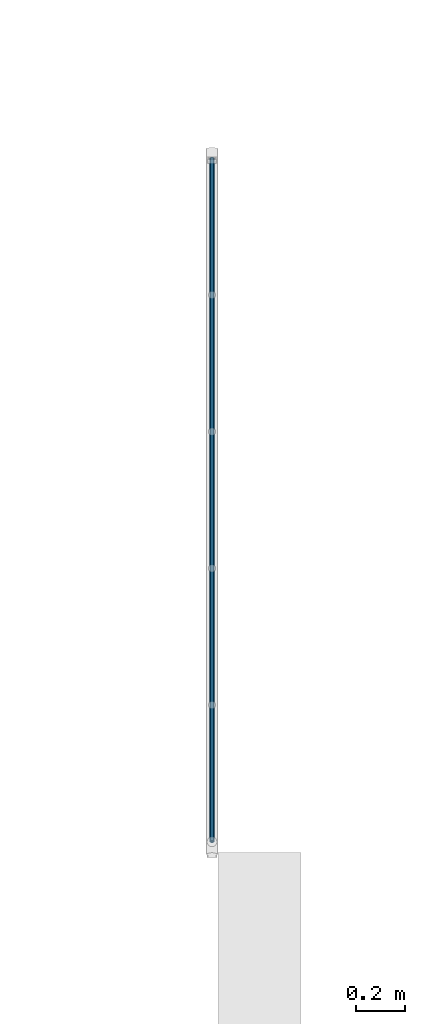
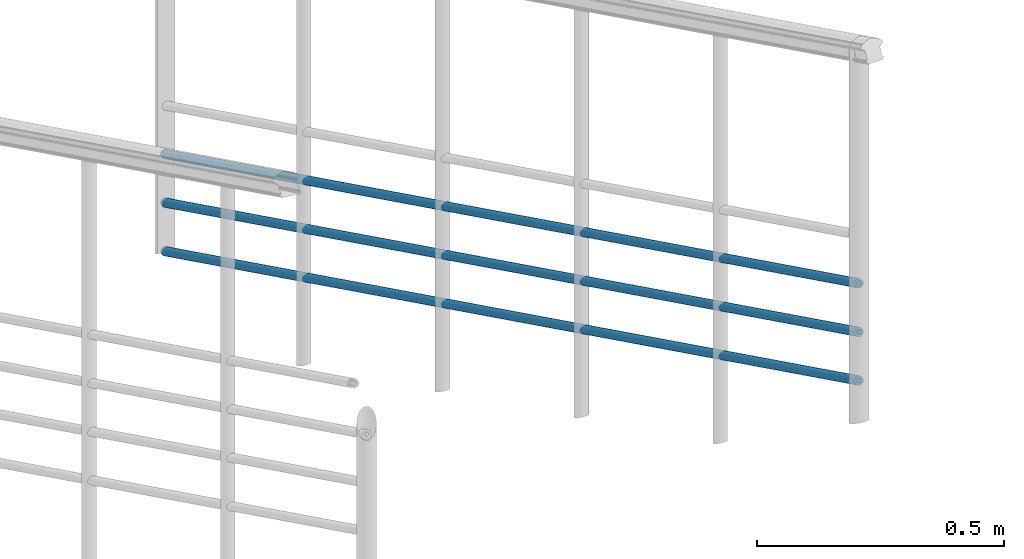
# One storey, part 4 of 16: 3 members, 1 element without a shape of its own.
"""IFC2X3 building model written with IfcOpenShell, lengths in millimetres."""

from ifc_helpers import new_model, entity, si_unit, converted_unit, derived_unit, money_unit, direction, frame, origin_with_axes, place, context, subcontext, project, spatial, faceted_brep, source, transform, mapped, material, type_object, element, aggregate, save


model = new_model("IFC2X3")

# Units and contexts
model_context = context("Model", 3, precision=0.01, world=origin_with_axes(), true_north=direction((0.0, 1.0)))
body_context = subcontext(model_context, "Body", "Model", "MODEL_VIEW")
ifc_project = project(units=[si_unit("LENGTHUNIT", "METRE", prefix="MILLI"), si_unit("AREAUNIT", "SQUARE_METRE"), si_unit("VOLUMEUNIT", "CUBIC_METRE"), converted_unit("PLANEANGLEUNIT", "DEGREE", entity("IfcPlaneAngleMeasure", 0.0174532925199), si_unit("PLANEANGLEUNIT", "RADIAN"), dimensions=[0, 0, 0, 0, 0, 0, 0]), si_unit("SOLIDANGLEUNIT", "STERADIAN"), money_unit("EUR"), converted_unit("TIMEUNIT", "Year", entity("IfcTimeMeasure", 31556926.0), si_unit("TIMEUNIT", "SECOND"), dimensions=[0, 0, 1, 0, 0, 0, 0]), si_unit("MASSUNIT", "GRAM", prefix="KILO"), si_unit("THERMODYNAMICTEMPERATUREUNIT", "DEGREE_CELSIUS"), si_unit("LUMINOUSINTENSITYUNIT", "LUMEN"), si_unit("ENERGYUNIT", "JOULE", prefix="MEGA"), derived_unit("THERMALCONDUCTANCEUNIT", [(si_unit("POWERUNIT", "WATT"), 1), (si_unit("LENGTHUNIT", "METRE"), -1), (si_unit("THERMODYNAMICTEMPERATUREUNIT", "KELVIN"), -1)]), derived_unit("SPECIFICHEATCAPACITYUNIT", [(si_unit("ENERGYUNIT", "JOULE"), 1), (si_unit("MASSUNIT", "GRAM", prefix="KILO"), -1), (si_unit("THERMODYNAMICTEMPERATUREUNIT", "KELVIN"), -1)]), derived_unit("MASSDENSITYUNIT", [(si_unit("MASSUNIT", "GRAM", prefix="KILO"), 1), (si_unit("VOLUMEUNIT", "CUBIC_METRE"), -1)])], contexts=[model_context])

# Site, building, storey
site_placement = place(None, origin_with_axes())
site = spatial("IfcSite", under=ifc_project, at=site_placement, Name="Paldiski mnt 245/1, Tallinn, Harjumaa", CompositionType="COMPLEX")
building_placement = place(site_placement, origin_with_axes())
building = spatial("IfcBuilding", under=site, at=building_placement, Name="RKAS Hoone üldnimetus (kasutust iseloomustav) -> IFC Project Manager -> SOLIBRI", CompositionType="ELEMENT")
storey_placement = place(building_placement, frame((0.0, 0.0, -1200.0), z_axis=(0.0, 0.0, 1.0), x_axis=(1.0, 0.0, 0.0)))
storey = spatial("IfcBuildingStorey", under=building, at=storey_placement, Name="Vundament", CompositionType="ELEMENT", Elevation=-1200.0)

# Railing, members
railing_type = type_object("IfcRailingType", Name="Railing Type", PredefinedType="NOTDEFINED")
railing_placement = place(storey_placement, frame((-44615.0, -7778.11378171, 1453.63636364), z_axis=(0.0, 0.0, 1.0), x_axis=(-0.773149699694, -0.634223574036, 0.0)))
railing = element("IfcRailing", 1, at=railing_placement, inside=storey, type_object=railing_type, Name="PIIRE", PredefinedType="NOTDEFINED")
ifc_material = material(Name="ET-07_Teras - Roostevaba")
member_type = type_object("IfcMemberType", Name="IfcMember", PredefinedType="USERDEFINED")
shared_shape_1 = source(origin_with_axes(), body_context, "Body", "Brep", [
    faceted_brep([(10.0, 0.0, 100.0), (9.84807753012, 0.767326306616, 101.55774815), (9.84807753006, -2806.30553558, 1484.28502088), (9.99999999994, -2807.07286188, 1482.72727273), (9.84807753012, -0.767326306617, 98.4422518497), (9.39692620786, -1.51133779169, 96.9318350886), (8.66025403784, -2.20942804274, 95.5146429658), (7.66044443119, -2.84038594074, 94.2337361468), (6.42787609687, -3.38504014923, 93.1280343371), (5.0, -3.82684162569, 92.2311337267), (3.42020143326, -4.15236645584, 91.5702861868), (1.73648177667, -4.35172373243, 91.1655712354), (0.0, -4.41885608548, 91.0292859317), (-1.73648177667, -4.35172373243, 91.1655712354), (-3.42020143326, -4.15236645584, 91.5702861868), (-5.0, -3.82684162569, 92.2311337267), (-6.42787609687, -3.38504014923, 93.1280343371), (-7.66044443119, -2.84038594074, 94.2337361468), (-8.66025403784, -2.20942804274, 95.5146429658), (-9.39692620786, -1.51133779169, 96.9318350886), (-9.84807753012, -0.767326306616, 98.4422518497), (-10.0, 0.0, 100.0), (-9.84807753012, 0.767326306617, 101.55774815), (-9.39692620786, 1.51133779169, 103.068164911), (-8.66025403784, 2.20942804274, 104.485357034), (-7.66044443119, 2.84038594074, 105.766263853), (-6.42787609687, 3.38504014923, 106.871965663), (-5.0, 3.82684162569, 107.768866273), (-3.42020143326, 4.15236645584, 108.429713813), (-1.73648177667, 4.35172373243, 108.834428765), (0.0, 4.41885608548, 108.970714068), (1.73648177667, 4.35172373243, 108.834428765), (3.42020143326, 4.15236645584, 108.429713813), (5.0, 3.82684162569, 107.768866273), (6.42787609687, 3.38504014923, 106.871965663), (7.66044443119, 2.84038594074, 105.766263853), (8.66025403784, 2.20942804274, 104.485357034), (9.39692620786, 1.51133779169, 103.068164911), (5.5, 0.0, 100.0), (5.41644264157, 0.422029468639, 100.856761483), (5.16830941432, 0.83123578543, 101.687490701), (4.76313972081, 1.21518542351, 102.466946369), (4.21324443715, 1.5622122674, 103.171445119), (3.53533185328, 1.86177208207, 103.779581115), (2.75, 2.10476289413, 104.27287645), (1.88111078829, 2.28380155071, 104.636342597), (0.955064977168, 2.39344805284, 104.858935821), (0.0, 2.43037084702, 104.933892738), (-0.955064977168, 2.39344805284, 104.858935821), (-1.88111078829, 2.28380155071, 104.636342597), (-2.75, 2.10476289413, 104.27287645), (-3.53533185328, 1.86177208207, 103.779581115), (-4.21324443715, 1.5622122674, 103.171445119), (-4.76313972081, 1.21518542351, 102.466946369), (-5.16830941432, 0.831235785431, 101.687490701), (-5.41644264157, 0.422029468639, 100.856761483), (-5.5, 0.0, 100.0), (-5.41644264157, -0.422029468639, 99.1432385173), (-5.16830941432, -0.83123578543, 98.3125092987), (-4.76313972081, -1.21518542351, 97.5330536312), (-4.21324443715, -1.5622122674, 96.8285548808), (-3.53533185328, -1.86177208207, 96.2204188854), (-2.75, -2.10476289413, 95.7271235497), (-1.88111078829, -2.28380155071, 95.3636574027), (-0.955064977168, -2.39344805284, 95.1410641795), (0.0, -2.43037084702, 95.0661072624), (0.955064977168, -2.39344805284, 95.1410641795), (1.88111078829, -2.28380155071, 95.3636574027), (2.75, -2.10476289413, 95.7271235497), (3.53533185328, -1.86177208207, 96.2204188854), (4.21324443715, -1.5622122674, 96.8285548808), (4.76313972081, -1.21518542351, 97.5330536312), (5.16830941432, -0.831235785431, 98.3125092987), (5.41644264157, -0.422029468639, 99.1432385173), (9.3969262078, -2805.56152409, 1485.79543764), (8.66025403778, -2804.86343384, 1487.21262976), (7.66044443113, -2804.23247594, 1488.49353658), (6.4278760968, -2803.68782173, 1489.59923839), (4.99999999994, -2803.24602026, 1490.496139), (3.42020143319, -2802.92049543, 1491.15698654), (1.73648177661, -2802.72113815, 1491.56170149), (0.0, -2802.6540058, 1491.6979868), (-1.73648177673, -2802.72113815, 1491.56170149), (-3.42020143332, -2802.92049543, 1491.15698654), (-5.00000000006, -2803.24602026, 1490.496139), (-6.42787609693, -2803.68782173, 1489.59923839), (-7.66044443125, -2804.23247594, 1488.49353658), (-8.66025403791, -2804.86343384, 1487.21262976), (-9.39692620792, -2805.56152409, 1485.79543764), (-9.84807753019, -2806.30553558, 1484.28502088), (-10.0000000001, -2807.07286188, 1482.72727273), (-9.84807753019, -2807.84018819, 1481.16952458), (-9.39692620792, -2808.58419967, 1479.65910782), (-8.66025403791, -2809.28228993, 1478.24191569), (-7.66044443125, -2809.91324782, 1476.96100887), (-6.42787609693, -2810.45790203, 1475.85530706), (-5.00000000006, -2810.89970351, 1474.95840645), (-3.42020143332, -2811.22522834, 1474.29755891), (-1.73648177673, -2811.42458562, 1473.89284396), (0.0, -2811.49171797, 1473.75655866), (1.73648177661, -2811.42458562, 1473.89284396), (3.42020143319, -2811.22522834, 1474.29755891), (4.99999999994, -2810.89970351, 1474.95840645), (6.4278760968, -2810.45790203, 1475.85530706), (7.66044443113, -2809.91324782, 1476.96100887), (8.66025403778, -2809.28228993, 1478.24191569), (9.3969262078, -2808.58419967, 1479.65910782), (9.84807753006, -2807.84018819, 1481.16952458), (5.49999999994, -2807.07286188, 1482.72727273), (5.4164426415, -2807.49489135, 1481.87051124), (5.16830941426, -2807.90409767, 1481.03978203), (4.76313972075, -2808.28804731, 1480.26032636), (4.21324443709, -2808.63507415, 1479.55582761), (3.53533185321, -2808.93463397, 1478.94769161), (2.74999999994, -2809.17762478, 1478.45439628), (1.88111078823, -2809.35666343, 1478.09093013), (0.955064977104, -2809.46630994, 1477.86833691), (0.0, -2809.50323273, 1477.79337999), (-0.955064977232, -2809.46630994, 1477.86833691), (-1.88111078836, -2809.35666343, 1478.09093013), (-2.75000000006, -2809.17762478, 1478.45439628), (-3.53533185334, -2808.93463397, 1478.94769161), (-4.21324443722, -2808.63507415, 1479.55582761), (-4.76313972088, -2808.28804731, 1480.26032636), (-5.16830941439, -2807.90409767, 1481.03978203), (-5.41644264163, -2807.49489135, 1481.87051124), (-5.50000000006, -2807.07286188, 1482.72727273), (-5.41644264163, -2806.65083241, 1483.58403421), (-5.16830941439, -2806.2416261, 1484.41476343), (-4.76313972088, -2805.85767646, 1485.1942191), (-4.21324443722, -2805.51064962, 1485.89871785), (-3.53533185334, -2805.2110898, 1486.50685384), (-2.75000000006, -2804.96809899, 1487.00014918), (-1.88111078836, -2804.78906033, 1487.36361532), (-0.955064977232, -2804.67941383, 1487.58620855), (0.0, -2804.64249104, 1487.66116546), (0.955064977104, -2804.67941383, 1487.58620855), (1.88111078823, -2804.78906033, 1487.36361532), (2.74999999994, -2804.96809899, 1487.00014918), (3.53533185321, -2805.2110898, 1486.50685384), (4.21324443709, -2805.51064962, 1485.89871785), (4.76313972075, -2805.85767646, 1485.1942191), (5.16830941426, -2806.2416261, 1484.41476343), (5.4164426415, -2806.65083241, 1483.58403421)], [[[0, 1, 2, 3]], [[0, 4, 5, 6, 7, 8, 9, 10, 11, 12, 13, 14, 15, 16, 17, 18, 19, 20, 21, 22, 23, 24, 25, 26, 27, 28, 29, 30, 31, 32, 33, 34, 35, 36, 37, 1], [38, 39, 40, 41, 42, 43, 44, 45, 46, 47, 48, 49, 50, 51, 52, 53, 54, 55, 56, 57, 58, 59, 60, 61, 62, 63, 64, 65, 66, 67, 68, 69, 70, 71, 72, 73]], [[1, 37, 74, 2]], [[3, 2, 74, 75, 76, 77, 78, 79, 80, 81, 82, 83, 84, 85, 86, 87, 88, 89, 90, 91, 92, 93, 94, 95, 96, 97, 98, 99, 100, 101, 102, 103, 104, 105, 106, 107], [108, 109, 110, 111, 112, 113, 114, 115, 116, 117, 118, 119, 120, 121, 122, 123, 124, 125, 126, 127, 128, 129, 130, 131, 132, 133, 134, 135, 136, 137, 138, 139, 140, 141, 142, 143]], [[4, 0, 3, 107]], [[5, 4, 107, 106]], [[6, 5, 106, 105]], [[7, 6, 105, 104]], [[8, 7, 104, 103]], [[9, 8, 103, 102]], [[10, 9, 102, 101]], [[11, 10, 101, 100]], [[12, 11, 100, 99]], [[13, 12, 99, 98]], [[14, 13, 98, 97]], [[15, 14, 97, 96]], [[16, 15, 96, 95]], [[17, 16, 95, 94]], [[18, 17, 94, 93]], [[19, 18, 93, 92]], [[20, 19, 92, 91]], [[21, 20, 91, 90]], [[22, 21, 90, 89]], [[23, 22, 89, 88]], [[24, 23, 88, 87]], [[25, 24, 87, 86]], [[26, 25, 86, 85]], [[27, 26, 85, 84]], [[28, 27, 84, 83]], [[29, 28, 83, 82]], [[30, 29, 82, 81]], [[31, 30, 81, 80]], [[32, 31, 80, 79]], [[33, 32, 79, 78]], [[34, 33, 78, 77]], [[35, 34, 77, 76]], [[36, 35, 76, 75]], [[37, 36, 75, 74]], [[39, 38, 108, 143]], [[40, 39, 143, 142]], [[41, 40, 142, 141]], [[42, 41, 141, 140]], [[43, 42, 140, 139]], [[44, 43, 139, 138]], [[45, 44, 138, 137]], [[46, 45, 137, 136]], [[47, 46, 136, 135]], [[48, 47, 135, 134]], [[49, 48, 134, 133]], [[50, 49, 133, 132]], [[51, 50, 132, 131]], [[52, 51, 131, 130]], [[53, 52, 130, 129]], [[54, 53, 129, 128]], [[55, 54, 128, 127]], [[56, 55, 127, 126]], [[57, 56, 126, 125]], [[58, 57, 125, 124]], [[59, 58, 124, 123]], [[60, 59, 123, 122]], [[61, 60, 122, 121]], [[62, 61, 121, 120]], [[63, 62, 120, 119]], [[64, 63, 119, 118]], [[65, 64, 118, 117]], [[66, 65, 117, 116]], [[67, 66, 116, 115]], [[68, 67, 115, 114]], [[69, 68, 114, 113]], [[70, 69, 113, 112]], [[71, 70, 112, 111]], [[72, 71, 111, 110]], [[73, 72, 110, 109]], [[38, 73, 109, 108]]]),
])
member_1_placement = place(railing_placement, frame((890.155891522, 1085.14377009, -14.1421356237), z_axis=(0.0, 0.0, 1.0), x_axis=(-0.773149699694, 0.634223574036, 0.0)))
member_1 = element("IfcMember", 2, at=member_1_placement, type_object=member_type, material=ifc_material, Name="Piirde alaosa - 001", ObjectType="Rail", context=body_context, shape_type="MappedRepresentation", body=[
    mapped(shared_shape_1, transform((0.0, 1403.53643094, -85.8578643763))),
])
shared_shape_2 = source(origin_with_axes(), body_context, "Body", "Brep", [
    faceted_brep([(10.0, 0.0, 220.0), (9.84807753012, 0.767326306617, 221.55774815), (9.84807753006, -2806.30553558, 1604.28502088), (9.99999999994, -2807.07286188, 1602.72727273), (9.84807753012, -0.767326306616, 218.44225185), (9.39692620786, -1.51133779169, 216.931835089), (8.66025403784, -2.20942804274, 215.514642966), (7.66044443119, -2.84038594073, 214.233736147), (6.42787609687, -3.38504014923, 213.128034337), (5.0, -3.82684162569, 212.231133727), (3.42020143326, -4.15236645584, 211.570286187), (1.73648177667, -4.35172373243, 211.165571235), (0.0, -4.41885608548, 211.029285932), (-1.73648177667, -4.35172373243, 211.165571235), (-3.42020143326, -4.15236645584, 211.570286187), (-5.0, -3.82684162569, 212.231133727), (-6.42787609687, -3.38504014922, 213.128034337), (-7.66044443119, -2.84038594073, 214.233736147), (-8.66025403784, -2.20942804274, 215.514642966), (-9.39692620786, -1.51133779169, 216.931835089), (-9.84807753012, -0.767326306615, 218.44225185), (-10.0, 0.0, 220.0), (-9.84807753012, 0.767326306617, 221.55774815), (-9.39692620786, 1.51133779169, 223.068164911), (-8.66025403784, 2.20942804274, 224.485357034), (-7.66044443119, 2.84038594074, 225.766263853), (-6.42787609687, 3.38504014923, 226.871965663), (-5.0, 3.8268416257, 227.768866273), (-3.42020143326, 4.15236645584, 228.429713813), (-1.73648177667, 4.35172373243, 228.834428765), (0.0, 4.41885608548, 228.970714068), (1.73648177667, 4.35172373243, 228.834428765), (3.42020143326, 4.15236645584, 228.429713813), (5.0, 3.8268416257, 227.768866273), (6.42787609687, 3.38504014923, 226.871965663), (7.66044443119, 2.84038594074, 225.766263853), (8.66025403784, 2.20942804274, 224.485357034), (9.39692620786, 1.51133779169, 223.068164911), (5.5, 0.0, 220.0), (5.41644264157, 0.42202946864, 220.856761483), (5.16830941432, 0.831235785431, 221.687490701), (4.76313972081, 1.21518542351, 222.466946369), (4.21324443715, 1.56221226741, 223.171445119), (3.53533185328, 1.86177208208, 223.779581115), (2.75, 2.10476289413, 224.27287645), (1.88111078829, 2.28380155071, 224.636342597), (0.955064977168, 2.39344805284, 224.858935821), (0.0, 2.43037084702, 224.933892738), (-0.955064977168, 2.39344805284, 224.858935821), (-1.88111078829, 2.28380155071, 224.636342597), (-2.75, 2.10476289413, 224.27287645), (-3.53533185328, 1.86177208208, 223.779581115), (-4.21324443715, 1.56221226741, 223.171445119), (-4.76313972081, 1.21518542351, 222.466946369), (-5.16830941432, 0.831235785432, 221.687490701), (-5.41644264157, 0.42202946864, 220.856761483), (-5.5, 0.0, 220.0), (-5.41644264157, -0.422029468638, 219.143238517), (-5.16830941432, -0.83123578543, 218.312509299), (-4.76313972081, -1.21518542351, 217.533053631), (-4.21324443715, -1.5622122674, 216.828554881), (-3.53533185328, -1.86177208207, 216.220418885), (-2.75, -2.10476289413, 215.72712355), (-1.88111078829, -2.28380155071, 215.363657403), (-0.955064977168, -2.39344805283, 215.141064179), (0.0, -2.43037084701, 215.066107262), (0.955064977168, -2.39344805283, 215.141064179), (1.88111078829, -2.28380155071, 215.363657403), (2.75, -2.10476289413, 215.72712355), (3.53533185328, -1.86177208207, 216.220418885), (4.21324443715, -1.5622122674, 216.828554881), (4.76313972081, -1.21518542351, 217.533053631), (5.16830941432, -0.83123578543, 218.312509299), (5.41644264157, -0.422029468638, 219.143238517), (9.3969262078, -2805.56152409, 1605.79543764), (8.66025403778, -2804.86343384, 1607.21262976), (7.66044443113, -2804.23247594, 1608.49353658), (6.4278760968, -2803.68782173, 1609.59923839), (4.99999999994, -2803.24602026, 1610.496139), (3.42020143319, -2802.92049543, 1611.15698654), (1.73648177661, -2802.72113815, 1611.56170149), (0.0, -2802.6540058, 1611.6979868), (-1.73648177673, -2802.72113815, 1611.56170149), (-3.42020143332, -2802.92049543, 1611.15698654), (-5.00000000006, -2803.24602026, 1610.496139), (-6.42787609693, -2803.68782173, 1609.59923839), (-7.66044443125, -2804.23247594, 1608.49353658), (-8.66025403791, -2804.86343384, 1607.21262976), (-9.39692620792, -2805.56152409, 1605.79543764), (-9.84807753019, -2806.30553558, 1604.28502088), (-10.0000000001, -2807.07286188, 1602.72727273), (-9.84807753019, -2807.84018819, 1601.16952458), (-9.39692620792, -2808.58419967, 1599.65910782), (-8.66025403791, -2809.28228993, 1598.24191569), (-7.66044443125, -2809.91324782, 1596.96100887), (-6.42787609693, -2810.45790203, 1595.85530706), (-5.00000000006, -2810.89970351, 1594.95840645), (-3.42020143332, -2811.22522834, 1594.29755891), (-1.73648177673, -2811.42458562, 1593.89284396), (0.0, -2811.49171797, 1593.75655866), (1.73648177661, -2811.42458562, 1593.89284396), (3.42020143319, -2811.22522834, 1594.29755891), (4.99999999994, -2810.89970351, 1594.95840645), (6.4278760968, -2810.45790203, 1595.85530706), (7.66044443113, -2809.91324782, 1596.96100887), (8.66025403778, -2809.28228993, 1598.24191569), (9.3969262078, -2808.58419967, 1599.65910782), (9.84807753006, -2807.84018819, 1601.16952458), (5.49999999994, -2807.07286188, 1602.72727273), (5.4164426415, -2807.49489135, 1601.87051124), (5.16830941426, -2807.90409767, 1601.03978203), (4.76313972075, -2808.28804731, 1600.26032636), (4.21324443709, -2808.63507415, 1599.55582761), (3.53533185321, -2808.93463397, 1598.94769161), (2.74999999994, -2809.17762478, 1598.45439628), (1.88111078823, -2809.35666343, 1598.09093013), (0.955064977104, -2809.46630994, 1597.86833691), (0.0, -2809.50323273, 1597.79337999), (-0.955064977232, -2809.46630994, 1597.86833691), (-1.88111078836, -2809.35666343, 1598.09093013), (-2.75000000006, -2809.17762478, 1598.45439628), (-3.53533185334, -2808.93463397, 1598.94769161), (-4.21324443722, -2808.63507415, 1599.55582761), (-4.76313972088, -2808.28804731, 1600.26032636), (-5.16830941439, -2807.90409767, 1601.03978203), (-5.41644264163, -2807.49489135, 1601.87051124), (-5.50000000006, -2807.07286188, 1602.72727273), (-5.41644264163, -2806.65083241, 1603.58403421), (-5.16830941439, -2806.2416261, 1604.41476343), (-4.76313972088, -2805.85767646, 1605.1942191), (-4.21324443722, -2805.51064962, 1605.89871785), (-3.53533185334, -2805.2110898, 1606.50685384), (-2.75000000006, -2804.96809899, 1607.00014918), (-1.88111078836, -2804.78906033, 1607.36361532), (-0.955064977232, -2804.67941383, 1607.58620855), (0.0, -2804.64249104, 1607.66116546), (0.955064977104, -2804.67941383, 1607.58620855), (1.88111078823, -2804.78906033, 1607.36361532), (2.74999999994, -2804.96809899, 1607.00014918), (3.53533185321, -2805.2110898, 1606.50685384), (4.21324443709, -2805.51064962, 1605.89871785), (4.76313972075, -2805.85767646, 1605.1942191), (5.16830941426, -2806.2416261, 1604.41476343), (5.4164426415, -2806.65083241, 1603.58403421)], [[[0, 1, 2, 3]], [[0, 4, 5, 6, 7, 8, 9, 10, 11, 12, 13, 14, 15, 16, 17, 18, 19, 20, 21, 22, 23, 24, 25, 26, 27, 28, 29, 30, 31, 32, 33, 34, 35, 36, 37, 1], [38, 39, 40, 41, 42, 43, 44, 45, 46, 47, 48, 49, 50, 51, 52, 53, 54, 55, 56, 57, 58, 59, 60, 61, 62, 63, 64, 65, 66, 67, 68, 69, 70, 71, 72, 73]], [[1, 37, 74, 2]], [[3, 2, 74, 75, 76, 77, 78, 79, 80, 81, 82, 83, 84, 85, 86, 87, 88, 89, 90, 91, 92, 93, 94, 95, 96, 97, 98, 99, 100, 101, 102, 103, 104, 105, 106, 107], [108, 109, 110, 111, 112, 113, 114, 115, 116, 117, 118, 119, 120, 121, 122, 123, 124, 125, 126, 127, 128, 129, 130, 131, 132, 133, 134, 135, 136, 137, 138, 139, 140, 141, 142, 143]], [[4, 0, 3, 107]], [[5, 4, 107, 106]], [[6, 5, 106, 105]], [[7, 6, 105, 104]], [[8, 7, 104, 103]], [[9, 8, 103, 102]], [[10, 9, 102, 101]], [[11, 10, 101, 100]], [[12, 11, 100, 99]], [[13, 12, 99, 98]], [[14, 13, 98, 97]], [[15, 14, 97, 96]], [[16, 15, 96, 95]], [[17, 16, 95, 94]], [[18, 17, 94, 93]], [[19, 18, 93, 92]], [[20, 19, 92, 91]], [[21, 20, 91, 90]], [[22, 21, 90, 89]], [[23, 22, 89, 88]], [[24, 23, 88, 87]], [[25, 24, 87, 86]], [[26, 25, 86, 85]], [[27, 26, 85, 84]], [[28, 27, 84, 83]], [[29, 28, 83, 82]], [[30, 29, 82, 81]], [[31, 30, 81, 80]], [[32, 31, 80, 79]], [[33, 32, 79, 78]], [[34, 33, 78, 77]], [[35, 34, 77, 76]], [[36, 35, 76, 75]], [[37, 36, 75, 74]], [[39, 38, 108, 143]], [[40, 39, 143, 142]], [[41, 40, 142, 141]], [[42, 41, 141, 140]], [[43, 42, 140, 139]], [[44, 43, 139, 138]], [[45, 44, 138, 137]], [[46, 45, 137, 136]], [[47, 46, 136, 135]], [[48, 47, 135, 134]], [[49, 48, 134, 133]], [[50, 49, 133, 132]], [[51, 50, 132, 131]], [[52, 51, 131, 130]], [[53, 52, 130, 129]], [[54, 53, 129, 128]], [[55, 54, 128, 127]], [[56, 55, 127, 126]], [[57, 56, 126, 125]], [[58, 57, 125, 124]], [[59, 58, 124, 123]], [[60, 59, 123, 122]], [[61, 60, 122, 121]], [[62, 61, 121, 120]], [[63, 62, 120, 119]], [[64, 63, 119, 118]], [[65, 64, 118, 117]], [[66, 65, 117, 116]], [[67, 66, 116, 115]], [[68, 67, 115, 114]], [[69, 68, 114, 113]], [[70, 69, 113, 112]], [[71, 70, 112, 111]], [[72, 71, 111, 110]], [[73, 72, 110, 109]], [[38, 73, 109, 108]]]),
])
member_2_placement = place(railing_placement, frame((890.155891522, 1085.14377009, 105.857864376), z_axis=(0.0, 0.0, 1.0), x_axis=(-0.773149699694, 0.634223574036, 0.0)))
member_2 = element("IfcMember", 3, at=member_2_placement, type_object=member_type, material=ifc_material, Name="Piirde alaosa - 001", ObjectType="Rail", context=body_context, shape_type="MappedRepresentation", body=[
    mapped(shared_shape_2, transform((0.0, 1403.53643094, -205.857864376))),
])
shared_shape_3 = source(origin_with_axes(), body_context, "Body", "Brep", [
    faceted_brep([(10.0, 0.0, 340.0), (9.84807753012, 0.767326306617, 341.55774815), (9.84807753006, -2806.30553558, 1724.28502088), (9.99999999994, -2807.07286188, 1722.72727273), (9.84807753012, -0.767326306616, 338.44225185), (9.39692620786, -1.51133779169, 336.931835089), (8.66025403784, -2.20942804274, 335.514642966), (7.66044443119, -2.84038594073, 334.233736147), (6.42787609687, -3.38504014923, 333.128034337), (5.0, -3.82684162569, 332.231133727), (3.42020143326, -4.15236645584, 331.570286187), (1.73648177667, -4.35172373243, 331.165571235), (0.0, -4.41885608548, 331.029285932), (-1.73648177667, -4.35172373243, 331.165571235), (-3.42020143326, -4.15236645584, 331.570286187), (-5.0, -3.82684162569, 332.231133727), (-6.42787609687, -3.38504014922, 333.128034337), (-7.66044443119, -2.84038594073, 334.233736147), (-8.66025403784, -2.20942804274, 335.514642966), (-9.39692620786, -1.51133779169, 336.931835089), (-9.84807753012, -0.767326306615, 338.44225185), (-10.0, 0.0, 340.0), (-9.84807753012, 0.767326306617, 341.55774815), (-9.39692620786, 1.51133779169, 343.068164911), (-8.66025403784, 2.20942804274, 344.485357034), (-7.66044443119, 2.84038594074, 345.766263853), (-6.42787609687, 3.38504014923, 346.871965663), (-5.0, 3.8268416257, 347.768866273), (-3.42020143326, 4.15236645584, 348.429713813), (-1.73648177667, 4.35172373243, 348.834428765), (0.0, 4.41885608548, 348.970714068), (1.73648177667, 4.35172373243, 348.834428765), (3.42020143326, 4.15236645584, 348.429713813), (5.0, 3.8268416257, 347.768866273), (6.42787609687, 3.38504014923, 346.871965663), (7.66044443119, 2.84038594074, 345.766263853), (8.66025403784, 2.20942804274, 344.485357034), (9.39692620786, 1.51133779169, 343.068164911), (5.5, 0.0, 340.0), (5.41644264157, 0.42202946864, 340.856761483), (5.16830941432, 0.831235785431, 341.687490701), (4.76313972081, 1.21518542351, 342.466946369), (4.21324443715, 1.56221226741, 343.171445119), (3.53533185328, 1.86177208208, 343.779581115), (2.75, 2.10476289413, 344.27287645), (1.88111078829, 2.28380155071, 344.636342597), (0.955064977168, 2.39344805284, 344.858935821), (0.0, 2.43037084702, 344.933892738), (-0.955064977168, 2.39344805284, 344.858935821), (-1.88111078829, 2.28380155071, 344.636342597), (-2.75, 2.10476289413, 344.27287645), (-3.53533185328, 1.86177208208, 343.779581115), (-4.21324443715, 1.56221226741, 343.171445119), (-4.76313972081, 1.21518542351, 342.466946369), (-5.16830941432, 0.831235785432, 341.687490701), (-5.41644264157, 0.42202946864, 340.856761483), (-5.5, 0.0, 340.0), (-5.41644264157, -0.422029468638, 339.143238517), (-5.16830941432, -0.83123578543, 338.312509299), (-4.76313972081, -1.21518542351, 337.533053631), (-4.21324443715, -1.5622122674, 336.828554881), (-3.53533185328, -1.86177208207, 336.220418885), (-2.75, -2.10476289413, 335.72712355), (-1.88111078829, -2.28380155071, 335.363657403), (-0.955064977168, -2.39344805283, 335.141064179), (0.0, -2.43037084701, 335.066107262), (0.955064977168, -2.39344805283, 335.141064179), (1.88111078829, -2.28380155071, 335.363657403), (2.75, -2.10476289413, 335.72712355), (3.53533185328, -1.86177208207, 336.220418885), (4.21324443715, -1.5622122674, 336.828554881), (4.76313972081, -1.21518542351, 337.533053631), (5.16830941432, -0.83123578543, 338.312509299), (5.41644264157, -0.422029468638, 339.143238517), (9.3969262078, -2805.56152409, 1725.79543764), (8.66025403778, -2804.86343384, 1727.21262976), (7.66044443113, -2804.23247594, 1728.49353658), (6.4278760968, -2803.68782173, 1729.59923839), (4.99999999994, -2803.24602026, 1730.496139), (3.42020143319, -2802.92049543, 1731.15698654), (1.73648177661, -2802.72113815, 1731.56170149), (0.0, -2802.6540058, 1731.6979868), (-1.73648177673, -2802.72113815, 1731.56170149), (-3.42020143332, -2802.92049543, 1731.15698654), (-5.00000000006, -2803.24602026, 1730.496139), (-6.42787609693, -2803.68782173, 1729.59923839), (-7.66044443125, -2804.23247594, 1728.49353658), (-8.66025403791, -2804.86343384, 1727.21262976), (-9.39692620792, -2805.56152409, 1725.79543764), (-9.84807753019, -2806.30553558, 1724.28502088), (-10.0000000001, -2807.07286188, 1722.72727273), (-9.84807753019, -2807.84018819, 1721.16952458), (-9.39692620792, -2808.58419967, 1719.65910782), (-8.66025403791, -2809.28228993, 1718.24191569), (-7.66044443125, -2809.91324782, 1716.96100887), (-6.42787609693, -2810.45790203, 1715.85530706), (-5.00000000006, -2810.89970351, 1714.95840645), (-3.42020143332, -2811.22522834, 1714.29755891), (-1.73648177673, -2811.42458562, 1713.89284396), (0.0, -2811.49171797, 1713.75655866), (1.73648177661, -2811.42458562, 1713.89284396), (3.42020143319, -2811.22522834, 1714.29755891), (4.99999999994, -2810.89970351, 1714.95840645), (6.4278760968, -2810.45790203, 1715.85530706), (7.66044443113, -2809.91324782, 1716.96100887), (8.66025403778, -2809.28228993, 1718.24191569), (9.3969262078, -2808.58419967, 1719.65910782), (9.84807753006, -2807.84018819, 1721.16952458), (5.49999999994, -2807.07286188, 1722.72727273), (5.4164426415, -2807.49489135, 1721.87051124), (5.16830941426, -2807.90409767, 1721.03978203), (4.76313972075, -2808.28804731, 1720.26032636), (4.21324443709, -2808.63507415, 1719.55582761), (3.53533185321, -2808.93463397, 1718.94769161), (2.74999999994, -2809.17762478, 1718.45439628), (1.88111078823, -2809.35666343, 1718.09093013), (0.955064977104, -2809.46630994, 1717.86833691), (0.0, -2809.50323273, 1717.79337999), (-0.955064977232, -2809.46630994, 1717.86833691), (-1.88111078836, -2809.35666343, 1718.09093013), (-2.75000000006, -2809.17762478, 1718.45439628), (-3.53533185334, -2808.93463397, 1718.94769161), (-4.21324443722, -2808.63507415, 1719.55582761), (-4.76313972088, -2808.28804731, 1720.26032636), (-5.16830941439, -2807.90409767, 1721.03978203), (-5.41644264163, -2807.49489135, 1721.87051124), (-5.50000000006, -2807.07286188, 1722.72727273), (-5.41644264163, -2806.65083241, 1723.58403421), (-5.16830941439, -2806.2416261, 1724.41476343), (-4.76313972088, -2805.85767646, 1725.1942191), (-4.21324443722, -2805.51064962, 1725.89871785), (-3.53533185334, -2805.2110898, 1726.50685384), (-2.75000000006, -2804.96809899, 1727.00014918), (-1.88111078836, -2804.78906033, 1727.36361532), (-0.955064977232, -2804.67941383, 1727.58620855), (0.0, -2804.64249104, 1727.66116546), (0.955064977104, -2804.67941383, 1727.58620855), (1.88111078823, -2804.78906033, 1727.36361532), (2.74999999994, -2804.96809899, 1727.00014918), (3.53533185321, -2805.2110898, 1726.50685384), (4.21324443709, -2805.51064962, 1725.89871785), (4.76313972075, -2805.85767646, 1725.1942191), (5.16830941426, -2806.2416261, 1724.41476343), (5.4164426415, -2806.65083241, 1723.58403421)], [[[0, 1, 2, 3]], [[0, 4, 5, 6, 7, 8, 9, 10, 11, 12, 13, 14, 15, 16, 17, 18, 19, 20, 21, 22, 23, 24, 25, 26, 27, 28, 29, 30, 31, 32, 33, 34, 35, 36, 37, 1], [38, 39, 40, 41, 42, 43, 44, 45, 46, 47, 48, 49, 50, 51, 52, 53, 54, 55, 56, 57, 58, 59, 60, 61, 62, 63, 64, 65, 66, 67, 68, 69, 70, 71, 72, 73]], [[1, 37, 74, 2]], [[3, 2, 74, 75, 76, 77, 78, 79, 80, 81, 82, 83, 84, 85, 86, 87, 88, 89, 90, 91, 92, 93, 94, 95, 96, 97, 98, 99, 100, 101, 102, 103, 104, 105, 106, 107], [108, 109, 110, 111, 112, 113, 114, 115, 116, 117, 118, 119, 120, 121, 122, 123, 124, 125, 126, 127, 128, 129, 130, 131, 132, 133, 134, 135, 136, 137, 138, 139, 140, 141, 142, 143]], [[4, 0, 3, 107]], [[5, 4, 107, 106]], [[6, 5, 106, 105]], [[7, 6, 105, 104]], [[8, 7, 104, 103]], [[9, 8, 103, 102]], [[10, 9, 102, 101]], [[11, 10, 101, 100]], [[12, 11, 100, 99]], [[13, 12, 99, 98]], [[14, 13, 98, 97]], [[15, 14, 97, 96]], [[16, 15, 96, 95]], [[17, 16, 95, 94]], [[18, 17, 94, 93]], [[19, 18, 93, 92]], [[20, 19, 92, 91]], [[21, 20, 91, 90]], [[22, 21, 90, 89]], [[23, 22, 89, 88]], [[24, 23, 88, 87]], [[25, 24, 87, 86]], [[26, 25, 86, 85]], [[27, 26, 85, 84]], [[28, 27, 84, 83]], [[29, 28, 83, 82]], [[30, 29, 82, 81]], [[31, 30, 81, 80]], [[32, 31, 80, 79]], [[33, 32, 79, 78]], [[34, 33, 78, 77]], [[35, 34, 77, 76]], [[36, 35, 76, 75]], [[37, 36, 75, 74]], [[39, 38, 108, 143]], [[40, 39, 143, 142]], [[41, 40, 142, 141]], [[42, 41, 141, 140]], [[43, 42, 140, 139]], [[44, 43, 139, 138]], [[45, 44, 138, 137]], [[46, 45, 137, 136]], [[47, 46, 136, 135]], [[48, 47, 135, 134]], [[49, 48, 134, 133]], [[50, 49, 133, 132]], [[51, 50, 132, 131]], [[52, 51, 131, 130]], [[53, 52, 130, 129]], [[54, 53, 129, 128]], [[55, 54, 128, 127]], [[56, 55, 127, 126]], [[57, 56, 126, 125]], [[58, 57, 125, 124]], [[59, 58, 124, 123]], [[60, 59, 123, 122]], [[61, 60, 122, 121]], [[62, 61, 121, 120]], [[63, 62, 120, 119]], [[64, 63, 119, 118]], [[65, 64, 118, 117]], [[66, 65, 117, 116]], [[67, 66, 116, 115]], [[68, 67, 115, 114]], [[69, 68, 114, 113]], [[70, 69, 113, 112]], [[71, 70, 112, 111]], [[72, 71, 111, 110]], [[73, 72, 110, 109]], [[38, 73, 109, 108]]]),
])
member_3_placement = place(railing_placement, frame((890.155891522, 1085.14377009, 225.857864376), z_axis=(0.0, 0.0, 1.0), x_axis=(-0.773149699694, 0.634223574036, 0.0)))
member_3 = element("IfcMember", 4, at=member_3_placement, type_object=member_type, material=ifc_material, Name="Piirde alaosa - 001", ObjectType="Rail", context=body_context, shape_type="MappedRepresentation", body=[
    mapped(shared_shape_3, transform((0.0, 1403.53643094, -325.857864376))),
])
aggregate(railing, [member_1, member_2, member_3])

save(model, "model.ifc")
